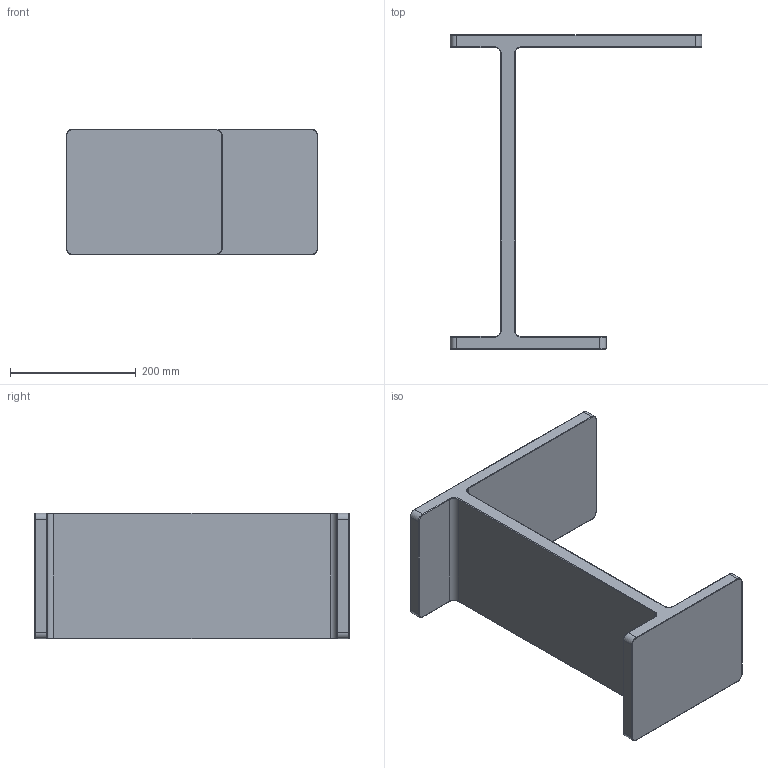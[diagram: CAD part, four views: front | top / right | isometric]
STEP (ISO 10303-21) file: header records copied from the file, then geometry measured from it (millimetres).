
FILE_DESCRIPTION (( 'STEP AP214' ), '1' );
FILE_NAME ('Dock_3D.STEP', '2026-04-16T13:19:57', ( '' ), ( '' ), 'SwSTEP 2.0', 'SolidWorks 2025', '' );
FILE_SCHEMA (( 'AUTOMOTIVE_DESIGN' ));
Length unit declared in the file: millimetre
Products named in the file (1): Dock_3D
Bounding box: 400 x 500 x 200 mm (x, y, z)
Volume: 4720482.5 mm3; surface area: 490281.8 mm2
Topology: 1 solids, 1 shells, 74 faces, 168 edges, 96 vertices
Faces by surface type: cylinder 36, torus 24, plane 14
Entity records: 2087 total; most frequent: DIRECTION 414, CARTESIAN_POINT 339, ORIENTED_EDGE 336, AXIS2_PLACEMENT_3D 171, EDGE_CURVE 168, VERTEX_POINT 96, CIRCLE 96, EDGE_LOOP 74
